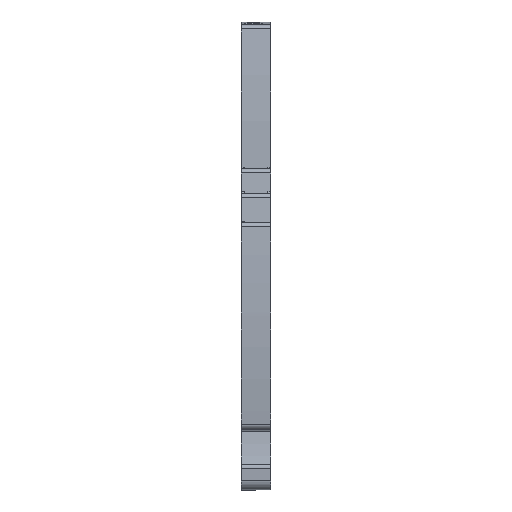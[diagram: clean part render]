
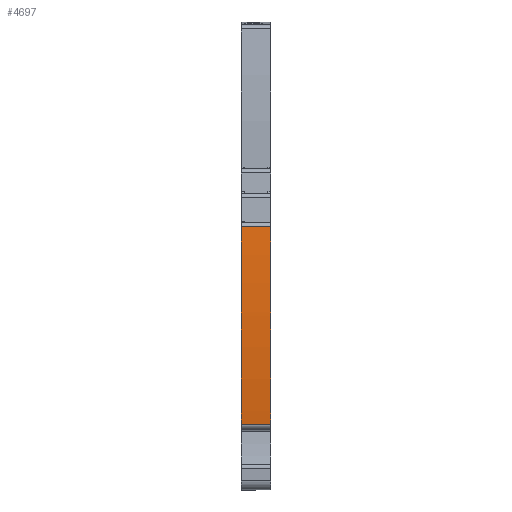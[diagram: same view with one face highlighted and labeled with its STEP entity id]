
A CAD part, front view. The second image highlights one B-rep face of the part: STEP entity #4697.
In plain terms, the highlighted cylindrical face has radius 202 mm (diameter 404 mm), a partial arc.
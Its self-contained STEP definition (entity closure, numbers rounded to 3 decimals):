
#483=AXIS2_PLACEMENT_3D('Circle Axis2P3D',#481,#482,$) ;
#490=AXIS2_PLACEMENT_3D('Circle Axis2P3D',#488,#489,$) ;
#497=AXIS2_PLACEMENT_3D('Circle Axis2P3D',#495,#496,$) ;
#504=AXIS2_PLACEMENT_3D('Circle Axis2P3D',#502,#503,$) ;
#4650=AXIS2_PLACEMENT_3D('Cylinder Axis2P3D',#4647,#4648,#4649) ;
#4654=AXIS2_PLACEMENT_3D('Circle Axis2P3D',#4652,#4653,$) ;
#4663=AXIS2_PLACEMENT_3D('Circle Axis2P3D',#4661,#4662,$) ;
#4670=AXIS2_PLACEMENT_3D('Circle Axis2P3D',#4668,#4669,$) ;
#4682=AXIS2_PLACEMENT_3D('Circle Axis2P3D',#4680,#4681,$) ;
#478=CARTESIAN_POINT('Vertex',(6.,0.609,53.828)) ;
#481=CARTESIAN_POINT('Axis2P3D Location',(6.,202.,38.15)) ;
#485=CARTESIAN_POINT('Vertex',(6.,0.007,36.45)) ;
#488=CARTESIAN_POINT('Axis2P3D Location',(6.,202.,38.15)) ;
#492=CARTESIAN_POINT('Vertex',(6.,0.015,35.65)) ;
#495=CARTESIAN_POINT('Axis2P3D Location',(6.,202.,38.15)) ;
#499=CARTESIAN_POINT('Vertex',(6.,1.191,16.25)) ;
#502=CARTESIAN_POINT('Axis2P3D Location',(6.,202.,38.15)) ;
#506=CARTESIAN_POINT('Vertex',(6.,1.531,13.327)) ;
#4631=CARTESIAN_POINT('Vertex',(0.,0.609,53.828)) ;
#4634=CARTESIAN_POINT('Line Origine',(2.39,0.609,53.828)) ;
#4647=CARTESIAN_POINT('Axis2P3D Location',(2.55,202.,38.15)) ;
#4652=CARTESIAN_POINT('Axis2P3D Location',(0.,202.,38.15)) ;
#4656=CARTESIAN_POINT('Vertex',(0.,0.007,36.45)) ;
#4658=CARTESIAN_POINT('Vertex',(0.,0.015,35.65)) ;
#4661=CARTESIAN_POINT('Axis2P3D Location',(0.,202.,38.15)) ;
#4665=CARTESIAN_POINT('Vertex',(0.,1.191,16.25)) ;
#4668=CARTESIAN_POINT('Axis2P3D Location',(0.,202.,38.15)) ;
#4672=CARTESIAN_POINT('Vertex',(0.,1.531,13.327)) ;
#4675=CARTESIAN_POINT('Line Origine',(2.55,1.531,13.327)) ;
#4680=CARTESIAN_POINT('Axis2P3D Location',(0.,202.,38.15)) ;
#482=DIRECTION('Axis2P3D Direction',(1.,0.,0.)) ;
#489=DIRECTION('Axis2P3D Direction',(1.,0.,0.)) ;
#496=DIRECTION('Axis2P3D Direction',(1.,0.,0.)) ;
#503=DIRECTION('Axis2P3D Direction',(1.,0.,0.)) ;
#4635=DIRECTION('Vector Direction',(1.,0.,0.)) ;
#4648=DIRECTION('Axis2P3D Direction',(1.,0.,0.)) ;
#4649=DIRECTION('Axis2P3D XDirection',(0.,-0.997,0.078)) ;
#4653=DIRECTION('Axis2P3D Direction',(1.,0.,0.)) ;
#4662=DIRECTION('Axis2P3D Direction',(1.,0.,0.)) ;
#4669=DIRECTION('Axis2P3D Direction',(1.,0.,0.)) ;
#4676=DIRECTION('Vector Direction',(1.,0.,0.)) ;
#4681=DIRECTION('Axis2P3D Direction',(1.,0.,0.)) ;
#4636=VECTOR('Line Direction',#4635,1.) ;
#4677=VECTOR('Line Direction',#4676,1.) ;
#4686=ORIENTED_EDGE('',*,*,#4660,.T.) ;
#4687=ORIENTED_EDGE('',*,*,#4667,.T.) ;
#4688=ORIENTED_EDGE('',*,*,#4674,.T.) ;
#4689=ORIENTED_EDGE('',*,*,#4679,.F.) ;
#4690=ORIENTED_EDGE('',*,*,#508,.F.) ;
#4691=ORIENTED_EDGE('',*,*,#501,.F.) ;
#4692=ORIENTED_EDGE('',*,*,#494,.F.) ;
#4693=ORIENTED_EDGE('',*,*,#487,.F.) ;
#4694=ORIENTED_EDGE('',*,*,#4638,.T.) ;
#4695=ORIENTED_EDGE('',*,*,#4684,.T.) ;
#4697=ADVANCED_FACE('KLEMME',(#4696),#4651,.T.) ;
#484=CIRCLE('generated circle',#483,202.) ;
#491=CIRCLE('generated circle',#490,202.) ;
#498=CIRCLE('generated circle',#497,202.) ;
#505=CIRCLE('generated circle',#504,202.) ;
#4655=CIRCLE('generated circle',#4654,202.) ;
#4664=CIRCLE('generated circle',#4663,202.) ;
#4671=CIRCLE('generated circle',#4670,202.) ;
#4683=CIRCLE('generated circle',#4682,202.) ;
#4651=CYLINDRICAL_SURFACE('generated cylinder',#4650,202.) ;
#487=EDGE_CURVE('',#479,#486,#484,.T.) ;
#494=EDGE_CURVE('',#486,#493,#491,.T.) ;
#501=EDGE_CURVE('',#493,#500,#498,.T.) ;
#508=EDGE_CURVE('',#500,#507,#505,.T.) ;
#4638=EDGE_CURVE('',#479,#4632,#4637,.F.) ;
#4660=EDGE_CURVE('',#4657,#4659,#4655,.T.) ;
#4667=EDGE_CURVE('',#4659,#4666,#4664,.T.) ;
#4674=EDGE_CURVE('',#4666,#4673,#4671,.T.) ;
#4679=EDGE_CURVE('',#507,#4673,#4678,.F.) ;
#4684=EDGE_CURVE('',#4632,#4657,#4683,.T.) ;
#4685=EDGE_LOOP('',(#4686,#4687,#4688,#4689,#4690,#4691,#4692,#4693,#4694,#4695)) ;
#4696=FACE_OUTER_BOUND('',#4685,.T.) ;
#4637=LINE('Line',#4634,#4636) ;
#4678=LINE('Line',#4675,#4677) ;
#479=VERTEX_POINT('',#478) ;
#486=VERTEX_POINT('',#485) ;
#493=VERTEX_POINT('',#492) ;
#500=VERTEX_POINT('',#499) ;
#507=VERTEX_POINT('',#506) ;
#4632=VERTEX_POINT('',#4631) ;
#4657=VERTEX_POINT('',#4656) ;
#4659=VERTEX_POINT('',#4658) ;
#4666=VERTEX_POINT('',#4665) ;
#4673=VERTEX_POINT('',#4672) ;
